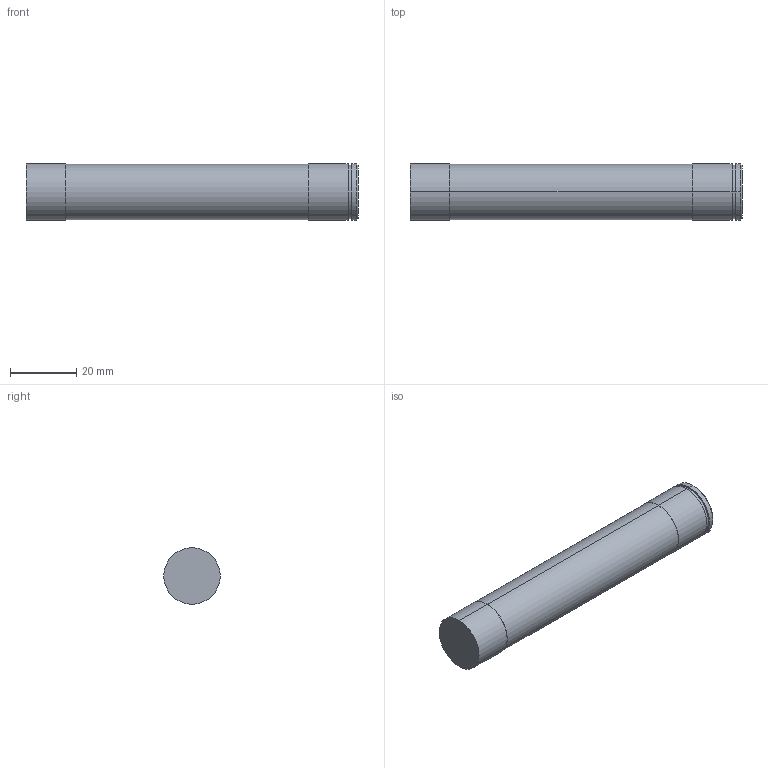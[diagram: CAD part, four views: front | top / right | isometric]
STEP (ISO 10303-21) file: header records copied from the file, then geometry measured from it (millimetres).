
FILE_DESCRIPTION (( 'STEP AP203' ), '1' );
FILE_NAME ('S7-17.STEP', '2002-08-16T10:51:37', ( '.' ), ( '.' ), 'SwSTEP 2.0', 'SolidWorks 2001340', '' );
FILE_SCHEMA (( 'CONFIG_CONTROL_DESIGN' ));
Length unit declared in the file: millimetre
Products named in the file (1): S7-17
Bounding box: 100 x 17 x 17 mm (x, y, z)
Volume: 22283.3 mm3; surface area: 5785.7 mm2
Topology: 1 solids, 1 shells, 18 faces, 34 edges, 22 vertices
Faces by surface type: cylinder 10, plane 6, cone 2
Entity records: 541 total; most frequent: DIRECTION 94, CARTESIAN_POINT 75, ORIENTED_EDGE 68, AXIS2_PLACEMENT_3D 41, EDGE_CURVE 34, VERTEX_POINT 22, EDGE_LOOP 22, CIRCLE 22
